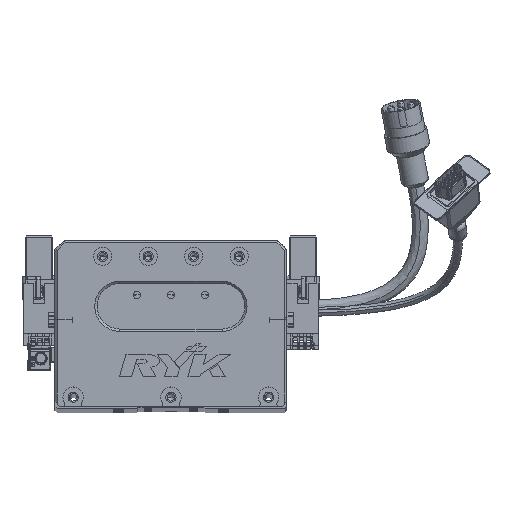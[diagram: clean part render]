
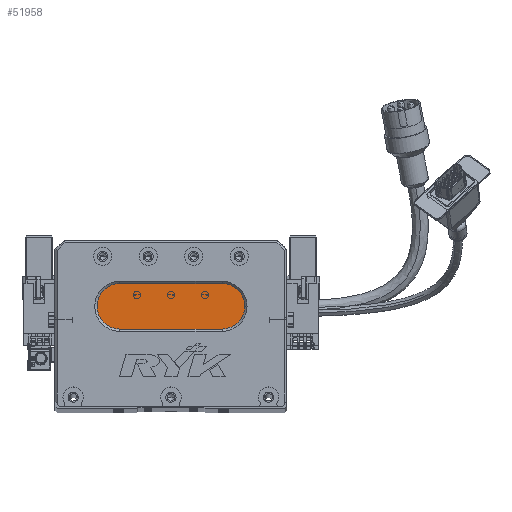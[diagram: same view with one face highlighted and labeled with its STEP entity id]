
A CAD part, top view. The second image highlights one B-rep face of the part: STEP entity #51958.
In plain terms, the highlighted planar face has unit normal (0, 0, 1) as drawn and (0, 0, -1) by its records, which use the part's own axes.
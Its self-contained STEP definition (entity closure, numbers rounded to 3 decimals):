
#351 = VECTOR ( 'NONE', #28767, 1000. ) ;
#647 = CARTESIAN_POINT ( 'NONE',  ( 28.5, 44., 13. ) ) ;
#1098 = VERTEX_POINT ( 'NONE', #67036 ) ;
#2340 = EDGE_LOOP ( 'NONE', ( #55537, #5351, #57865, #69883, #53105 ) ) ;
#5351 = ORIENTED_EDGE ( 'NONE', *, *, #37720, .T. ) ;
#5542 = VERTEX_POINT ( 'NONE', #21203 ) ;
#6379 = DIRECTION ( 'NONE',  ( 0., 0., -1. ) ) ;
#8613 = VECTOR ( 'NONE', #21207, 1000. ) ;
#9827 = VERTEX_POINT ( 'NONE', #10771 ) ;
#10771 = CARTESIAN_POINT ( 'NONE',  ( 73.5, 54., 13. ) ) ;
#11390 = DIRECTION ( 'NONE',  ( 0., 0., -1. ) ) ;
#15733 = EDGE_CURVE ( 'NONE', #64104, #5542, #60230, .T. ) ;
#15919 = CARTESIAN_POINT ( 'NONE',  ( 73.5, 34., 13. ) ) ;
#16890 = VERTEX_POINT ( 'NONE', #55318 ) ;
#17346 = CIRCLE ( 'NONE', #43633, 10. ) ;
#21203 = CARTESIAN_POINT ( 'NONE',  ( 18.5, 44., 13. ) ) ;
#21207 = DIRECTION ( 'NONE',  ( -1., 0., 0. ) ) ;
#21249 = DIRECTION ( 'NONE',  ( -1., 0., 0. ) ) ;
#22602 = FACE_OUTER_BOUND ( 'NONE', #2340, .T. ) ;
#22958 = EDGE_CURVE ( 'NONE', #1098, #9827, #44836, .T. ) ;
#23209 = LINE ( 'NONE', #15919, #8613 ) ;
#27687 = PLANE ( 'NONE',  #52724 ) ;
#28767 = DIRECTION ( 'NONE',  ( 1., 0., 0. ) ) ;
#30586 = CARTESIAN_POINT ( 'NONE',  ( 28.5, 44., 13. ) ) ;
#31501 = AXIS2_PLACEMENT_3D ( 'NONE', #647, #49949, #44437 ) ;
#35610 = DIRECTION ( 'NONE',  ( 0., 0., -1. ) ) ;
#37720 = EDGE_CURVE ( 'NONE', #16890, #64104, #23209, .T. ) ;
#39175 = CARTESIAN_POINT ( 'NONE',  ( 73.5, 44., 13. ) ) ;
#43633 = AXIS2_PLACEMENT_3D ( 'NONE', #39175, #6379, #60692 ) ;
#44437 = DIRECTION ( 'NONE',  ( -1., 0., 0. ) ) ;
#44836 = LINE ( 'NONE', #62194, #351 ) ;
#48405 = CIRCLE ( 'NONE', #56752, 10. ) ;
#49336 = EDGE_CURVE ( 'NONE', #5542, #1098, #48405, .T. ) ;
#49949 = DIRECTION ( 'NONE',  ( 0., 0., -1. ) ) ;
#51958 = ADVANCED_FACE ( 'NONE', ( #22602 ), #27687, .T. ) ;
#52724 = AXIS2_PLACEMENT_3D ( 'NONE', #59441, #11390, #21249 ) ;
#52889 = EDGE_CURVE ( 'NONE', #9827, #16890, #17346, .T. ) ;
#53105 = ORIENTED_EDGE ( 'NONE', *, *, #22958, .T. ) ;
#55318 = CARTESIAN_POINT ( 'NONE',  ( 73.5, 34., 13. ) ) ;
#55392 = CARTESIAN_POINT ( 'NONE',  ( 28.5, 34., 13. ) ) ;
#55537 = ORIENTED_EDGE ( 'NONE', *, *, #52889, .T. ) ;
#56752 = AXIS2_PLACEMENT_3D ( 'NONE', #30586, #35610, #68568 ) ;
#57865 = ORIENTED_EDGE ( 'NONE', *, *, #15733, .T. ) ;
#59441 = CARTESIAN_POINT ( 'NONE',  ( 73.5, 44., 13. ) ) ;
#60230 = CIRCLE ( 'NONE', #31501, 10. ) ;
#60692 = DIRECTION ( 'NONE',  ( -1., 0., 0. ) ) ;
#62194 = CARTESIAN_POINT ( 'NONE',  ( 73.5, 54., 13. ) ) ;
#64104 = VERTEX_POINT ( 'NONE', #55392 ) ;
#67036 = CARTESIAN_POINT ( 'NONE',  ( 28.5, 54., 13. ) ) ;
#68568 = DIRECTION ( 'NONE',  ( -1., 0., 0. ) ) ;
#69883 = ORIENTED_EDGE ( 'NONE', *, *, #49336, .T. ) ;
